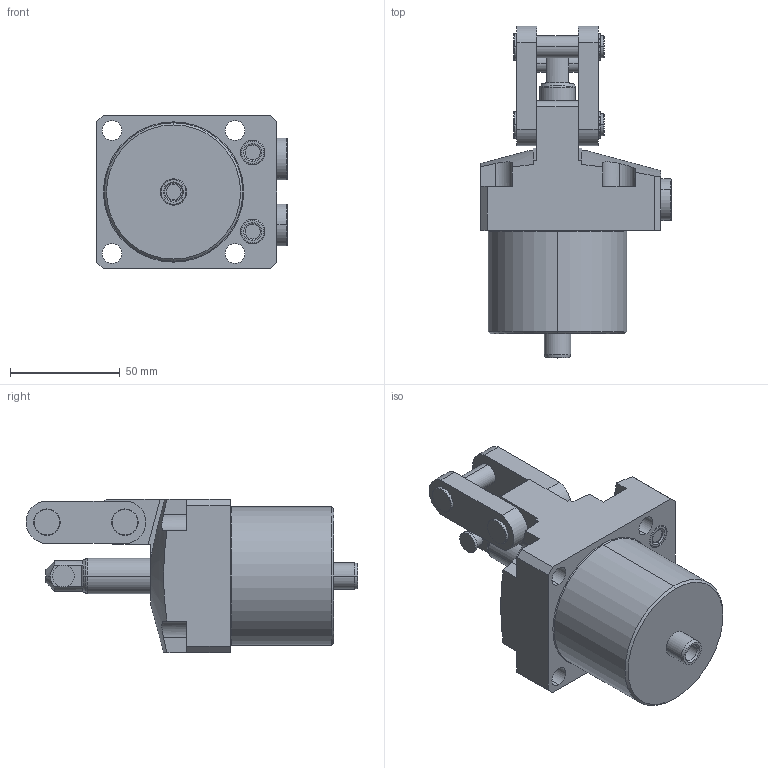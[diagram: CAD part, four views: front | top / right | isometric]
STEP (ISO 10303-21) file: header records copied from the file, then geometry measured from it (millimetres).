
FILE_DESCRIPTION(/* description */ (''),/* implementation_level */ '2;1');
FILE_NAME(/* name */ 'TPC10-LD.stp',/* time_stamp */ '2025-01-05T10:13:30+08:00',/* author */ (''),/* organization */ (''),/* preprocessor_version */ 'ST-DEVELOPER v16.7',/* originating_system */ 'SIEMENS PLM Software NX 12.0',/* authorisation */ '');
FILE_SCHEMA (('AUTOMOTIVE_DESIGN { 1 0 10303 214 3 1 1 1 }'));
Length unit declared in the file: millimetre
Products named in the file (5): TPC10-LD-04; TPC10-LD-03; TPC10-LD-02; TPC10-LD-01; TPC10-LD_stp
Assembly tree (5 placements, depth 2):
  TPC10-LD_stp
    TPC10-LD-01
    TPC10-LD-02
    TPC10-LD-03
    TPC10-LD-04  x2
Bounding box: 86.8 x 151 x 70 mm (x, y, z)
Volume: 353299.5 mm3; surface area: 56400.5 mm2
Topology: 5 solids, 7 shells, 295 faces, 693 edges, 440 vertices
Faces by surface type: cylinder 124, plane 114, torus 34, cone 23
Entity records: 8212 total; most frequent: CARTESIAN_POINT 1523, DIRECTION 1483, ORIENTED_EDGE 1294, EDGE_CURVE 647, AXIS2_PLACEMENT_3D 593, VERTEX_POINT 412, EDGE_LOOP 321, CIRCLE 314
